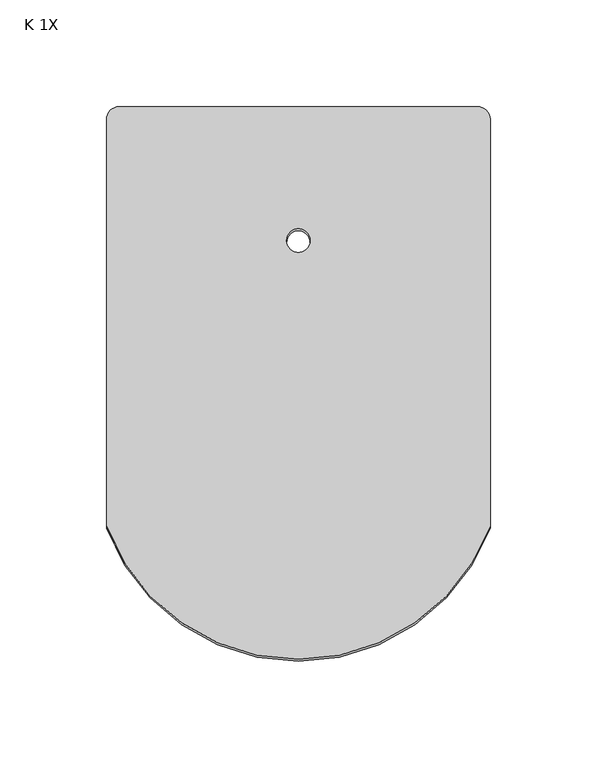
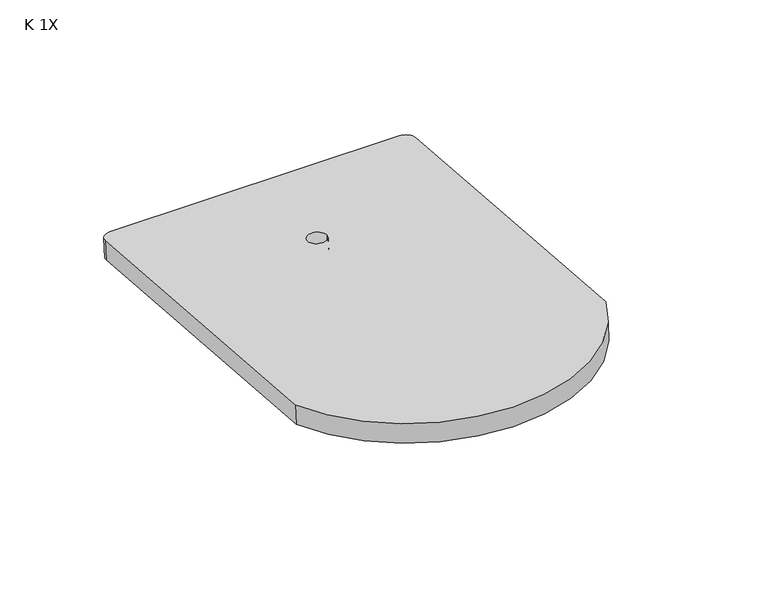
"""IFC4 building model written with IfcOpenShell, lengths in millimetres: proxy geometry, ML-PR-V-P-BLACK-P : K 1X."""

from ifc_helpers import new_model, si_unit, point, frame, frame_2d, origin, place, context, project, spatial, polyline, circle_curve, trimmed, segment, composite_curve, outline, extrude, source, transform, mapped, element, save


def k_1x_9c92190e(model_context):
    return source(origin(), model_context, "Body", "SweptSolid", [
        extrude(outline(composite_curve([segment(trimmed(circle_curve(frame_2d((311.4065862, -6.0)), 6.0), [point((311.4065862, 0.0))], [point((317.4065861, -6.0))], False, "CARTESIAN"), True, "CONTINUOUS"), segment(polyline([(317.4065861, -6.0), (317.4065861, -174.0)]), True, "CONTINUOUS"), segment(trimmed(circle_curve(frame_2d((311.4065862, -174.0)), 6.0), [point((317.4065861, -174.0))], [point((311.4065862, -180.0))], False, "CARTESIAN"), True, "CONTINUOUS"), segment(polyline([(311.4065862, -180.0), (120.0, -180.0)]), True, "CONTINUOUS"), segment(trimmed(circle_curve(frame_2d((153.4065862, -90.0)), 96.0), [point((120.0, -180.0))], [point((120.0, 0.0))], False, "CARTESIAN"), True, "CONTINUOUS"), segment(polyline([(120.0, 0.0), (311.4065862, 0.0)]), True, "CONTINUOUS")], self_intersect=False), holes=[composite_curve([segment(trimmed(circle_curve(frame_2d((254.4065861, -90.0)), 5.5), [point((254.4065861, -84.5))], [point((254.4065861, -95.5))], True, "CARTESIAN"), True, "CONTINUOUS"), segment(trimmed(circle_curve(frame_2d((254.4065861, -90.0)), 5.5), [point((254.4065861, -95.5))], [point((254.4065861, -84.5))], True, "CARTESIAN"), True, "CONTINUOUS")], self_intersect=False)]), frame((-90.0, -275.2448576, 21.5035045), z_axis=(0.0, 0.07788766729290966, 0.9969621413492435), x_axis=(0.0, 0.9969621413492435, -0.07788766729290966)), (0.0, 0.0, 1.0), 11.5),
    ])


if __name__ == "__main__":
    model = new_model("IFC4")
    model_context = context("Model", 3, world=origin())
    ifc_project = project(units=[si_unit("LENGTHUNIT", "METRE", prefix="MILLI")], contexts=[model_context])
    site = spatial("IfcSite", under=ifc_project)
    building = spatial("IfcBuilding", under=site)
    placement = place(None, origin())
    k_1x_shape = k_1x_9c92190e(model_context)
    element("IfcBuildingElementProxy", 1, Name="ML-PR-V-P-BLACK-P : K 1X", ObjectType="ML-PR-V-P-BLACK-P : K 1X", at=placement, inside=building, context=model_context, shape_type="MappedRepresentation", body=[
        mapped(k_1x_shape, transform((0.0, 0.0, 0.0), x_axis=(1.0, 0.0, 0.0), y_axis=(0.0, 1.0, 0.0), z_axis=(0.0, 0.0, 1.0))),
    ])
    save(model, "model.ifc")
